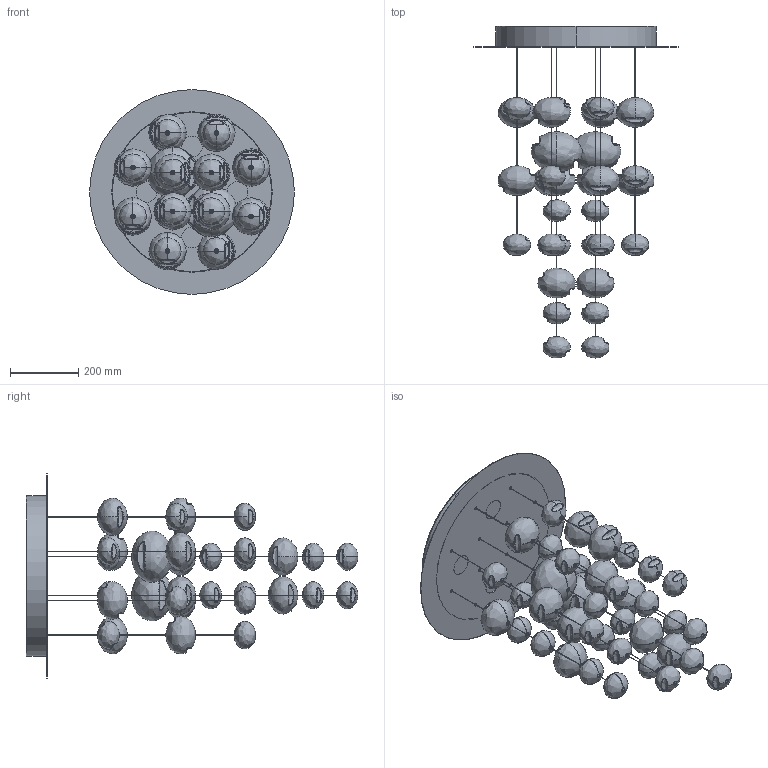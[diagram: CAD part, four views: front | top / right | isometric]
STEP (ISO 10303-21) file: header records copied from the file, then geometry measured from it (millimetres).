
FILE_DESCRIPTION (( 'STEP AP203' ), '1' );
FILE_NAME ('ETHER_S_STEP.STEP', '2016-02-02T10:27:35', ( 'admin' ), ( '' ), 'SwSTEP 2.0', 'SolidWorks 2015', '' );
FILE_SCHEMA (( 'CONFIG_CONTROL_DESIGN' ));
Length unit declared in the file: millimetre
Products named in the file (2): ETHER_S_STEP
Bounding box: 600 x 972.45 x 600 mm (x, y, z)
Volume: 2664370.1 mm3; surface area: 2959993.2 mm2
Topology: 94 solids, 94 shells, 1171 faces, 2902 edges, 1848 vertices
Faces by surface type: bspline 680, cylinder 382, plane 109
Entity records: 763152 total; most frequent: CARTESIAN_POINT 738993, ORIENTED_EDGE 5804, DIRECTION 4018, EDGE_CURVE 2902, VERTEX_POINT 1848, AXIS2_PLACEMENT_3D 1818, CIRCLE 1325, EDGE_LOOP 1292
